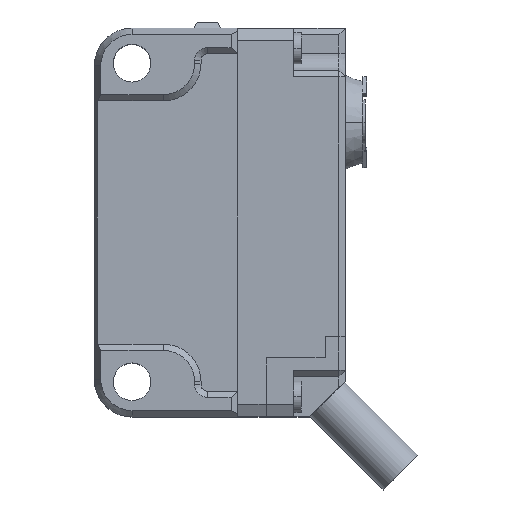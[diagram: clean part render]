
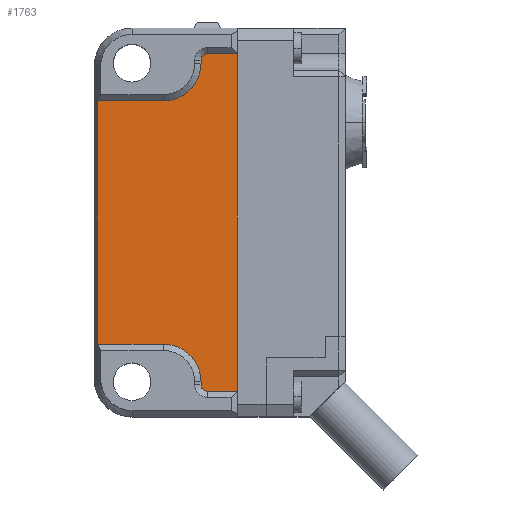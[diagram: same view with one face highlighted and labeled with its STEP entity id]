
A CAD part, top view. The second image highlights one B-rep face of the part: STEP entity #1763.
In plain terms, the highlighted planar face has unit normal (0, 0, 1).
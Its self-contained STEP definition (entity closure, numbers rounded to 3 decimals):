
#103 = DIRECTION ( 'NONE',  ( 0., -1., 0. ) ) ;
#177 = DIRECTION ( 'NONE',  ( 0., 0., 1. ) ) ;
#260 = LINE ( 'NONE', #6302, #2195 ) ;
#328 = AXIS2_PLACEMENT_3D ( 'NONE', #6669, #2855, #6068 ) ;
#365 = ORIENTED_EDGE ( 'NONE', *, *, #3786, .T. ) ;
#395 = CIRCLE ( 'NONE', #6634, 0.5 ) ;
#585 = CARTESIAN_POINT ( 'NONE',  ( 0.225, -9.7, 6. ) ) ;
#591 = DIRECTION ( 'NONE',  ( -1., 0., 0. ) ) ;
#698 = VECTOR ( 'NONE', #3259, 1000. ) ;
#787 = CARTESIAN_POINT ( 'NONE',  ( 8.5, 14.5, 6. ) ) ;
#966 = ORIENTED_EDGE ( 'NONE', *, *, #4054, .T. ) ;
#1073 = VERTEX_POINT ( 'NONE', #1159 ) ;
#1075 = EDGE_CURVE ( 'NONE', #5812, #2580, #1686, .T. ) ;
#1110 = EDGE_LOOP ( 'NONE', ( #2482, #4589, #1712, #966, #5608, #5149, #365, #5944, #5496, #2544, #5777, #4335 ) ) ;
#1159 = CARTESIAN_POINT ( 'NONE',  ( 0.225, 9.7, 6. ) ) ;
#1184 = CARTESIAN_POINT ( 'NONE',  ( 5.5, 9.7, 6. ) ) ;
#1195 = DIRECTION ( 'NONE',  ( 1., 0., 0. ) ) ;
#1314 = CARTESIAN_POINT ( 'NONE',  ( 0., 13.45, 6. ) ) ;
#1362 = DIRECTION ( 'NONE',  ( 0., -1., 0. ) ) ;
#1428 = CIRCLE ( 'NONE', #2542, 3. ) ;
#1449 = EDGE_CURVE ( 'NONE', #3024, #5812, #6017, .T. ) ;
#1601 = AXIS2_PLACEMENT_3D ( 'NONE', #4757, #2553, #4722 ) ;
#1686 = LINE ( 'NONE', #1719, #3475 ) ;
#1712 = ORIENTED_EDGE ( 'NONE', *, *, #5456, .T. ) ;
#1719 = CARTESIAN_POINT ( 'NONE',  ( 0., -13.45, 6. ) ) ;
#1763 = ADVANCED_FACE ( 'NONE', ( #3089 ), #3122, .T. ) ;
#1777 = LINE ( 'NONE', #4466, #5463 ) ;
#1845 = EDGE_CURVE ( 'NONE', #2580, #4354, #3928, .T. ) ;
#2085 = EDGE_CURVE ( 'NONE', #6256, #5259, #4876, .T. ) ;
#2148 = DIRECTION ( 'NONE',  ( 1., 0., 0. ) ) ;
#2195 = VECTOR ( 'NONE', #6730, 1000. ) ;
#2204 = CARTESIAN_POINT ( 'NONE',  ( 9., 12.95, 6. ) ) ;
#2268 = VERTEX_POINT ( 'NONE', #4982 ) ;
#2389 = CARTESIAN_POINT ( 'NONE',  ( 8.5, 12.7, 6. ) ) ;
#2482 = ORIENTED_EDGE ( 'NONE', *, *, #1075, .T. ) ;
#2542 = AXIS2_PLACEMENT_3D ( 'NONE', #6937, #6998, #3131 ) ;
#2544 = ORIENTED_EDGE ( 'NONE', *, *, #3916, .T. ) ;
#2553 = DIRECTION ( 'NONE',  ( 0., 0., 1. ) ) ;
#2580 = VERTEX_POINT ( 'NONE', #5565 ) ;
#2602 = CARTESIAN_POINT ( 'NONE',  ( 0., -9.7, 6. ) ) ;
#2755 = VERTEX_POINT ( 'NONE', #1184 ) ;
#2790 = EDGE_CURVE ( 'NONE', #5868, #3024, #1777, .T. ) ;
#2855 = DIRECTION ( 'NONE',  ( 0., 0., -1. ) ) ;
#2902 = VECTOR ( 'NONE', #103, 1000. ) ;
#2925 = CIRCLE ( 'NONE', #328, 3. ) ;
#2944 = AXIS2_PLACEMENT_3D ( 'NONE', #3940, #6503, #5548 ) ;
#2975 = CARTESIAN_POINT ( 'NONE',  ( 9., -13.45, 6. ) ) ;
#3024 = VERTEX_POINT ( 'NONE', #3643 ) ;
#3089 = FACE_OUTER_BOUND ( 'NONE', #1110, .T. ) ;
#3122 = PLANE ( 'NONE',  #1601 ) ;
#3131 = DIRECTION ( 'NONE',  ( 1., 0., 0. ) ) ;
#3259 = DIRECTION ( 'NONE',  ( 0., 1., 0. ) ) ;
#3360 = VECTOR ( 'NONE', #591, 1000. ) ;
#3395 = VERTEX_POINT ( 'NONE', #5174 ) ;
#3428 = VERTEX_POINT ( 'NONE', #2389 ) ;
#3475 = VECTOR ( 'NONE', #1195, 1000. ) ;
#3643 = CARTESIAN_POINT ( 'NONE',  ( 8.5, -12.95, 6. ) ) ;
#3785 = CARTESIAN_POINT ( 'NONE',  ( 11.4, 14.5, 6. ) ) ;
#3786 = EDGE_CURVE ( 'NONE', #2755, #1073, #260, .T. ) ;
#3916 = EDGE_CURVE ( 'NONE', #5259, #5868, #1428, .T. ) ;
#3928 = LINE ( 'NONE', #3785, #698 ) ;
#3940 = CARTESIAN_POINT ( 'NONE',  ( 9., -12.95, 6. ) ) ;
#4028 = VECTOR ( 'NONE', #1362, 1000. ) ;
#4054 = EDGE_CURVE ( 'NONE', #2268, #3395, #395, .T. ) ;
#4213 = CARTESIAN_POINT ( 'NONE',  ( 8.5, -12.7, 6. ) ) ;
#4335 = ORIENTED_EDGE ( 'NONE', *, *, #1449, .T. ) ;
#4354 = VERTEX_POINT ( 'NONE', #4639 ) ;
#4466 = CARTESIAN_POINT ( 'NONE',  ( 8.5, 14.5, 6. ) ) ;
#4589 = ORIENTED_EDGE ( 'NONE', *, *, #1845, .T. ) ;
#4639 = CARTESIAN_POINT ( 'NONE',  ( 11.4, 13.45, 6. ) ) ;
#4674 = VECTOR ( 'NONE', #2148, 1000. ) ;
#4722 = DIRECTION ( 'NONE',  ( 1., 0., 0. ) ) ;
#4757 = CARTESIAN_POINT ( 'NONE',  ( 0., 14.5, 6. ) ) ;
#4852 = CARTESIAN_POINT ( 'NONE',  ( 5.5, -9.7, 6. ) ) ;
#4876 = LINE ( 'NONE', #2602, #4674 ) ;
#4967 = LINE ( 'NONE', #787, #2902 ) ;
#4982 = CARTESIAN_POINT ( 'NONE',  ( 9., 13.45, 6. ) ) ;
#4985 = EDGE_CURVE ( 'NONE', #3395, #3428, #4967, .T. ) ;
#5149 = ORIENTED_EDGE ( 'NONE', *, *, #6025, .T. ) ;
#5174 = CARTESIAN_POINT ( 'NONE',  ( 8.5, 12.95, 6. ) ) ;
#5178 = EDGE_CURVE ( 'NONE', #1073, #6256, #6217, .T. ) ;
#5259 = VERTEX_POINT ( 'NONE', #4852 ) ;
#5456 = EDGE_CURVE ( 'NONE', #4354, #2268, #5458, .T. ) ;
#5458 = LINE ( 'NONE', #1314, #3360 ) ;
#5463 = VECTOR ( 'NONE', #6641, 1000. ) ;
#5496 = ORIENTED_EDGE ( 'NONE', *, *, #2085, .T. ) ;
#5548 = DIRECTION ( 'NONE',  ( 1., 0., 0. ) ) ;
#5565 = CARTESIAN_POINT ( 'NONE',  ( 11.4, -13.45, 6. ) ) ;
#5608 = ORIENTED_EDGE ( 'NONE', *, *, #4985, .T. ) ;
#5777 = ORIENTED_EDGE ( 'NONE', *, *, #2790, .T. ) ;
#5812 = VERTEX_POINT ( 'NONE', #2975 ) ;
#5868 = VERTEX_POINT ( 'NONE', #4213 ) ;
#5944 = ORIENTED_EDGE ( 'NONE', *, *, #5178, .T. ) ;
#6017 = CIRCLE ( 'NONE', #2944, 0.5 ) ;
#6025 = EDGE_CURVE ( 'NONE', #3428, #2755, #2925, .T. ) ;
#6068 = DIRECTION ( 'NONE',  ( 1., 0., 0. ) ) ;
#6217 = LINE ( 'NONE', #6822, #4028 ) ;
#6256 = VERTEX_POINT ( 'NONE', #585 ) ;
#6302 = CARTESIAN_POINT ( 'NONE',  ( 0., 9.7, 6. ) ) ;
#6503 = DIRECTION ( 'NONE',  ( 0., 0., 1. ) ) ;
#6634 = AXIS2_PLACEMENT_3D ( 'NONE', #2204, #177, #6644 ) ;
#6641 = DIRECTION ( 'NONE',  ( 0., -1., 0. ) ) ;
#6644 = DIRECTION ( 'NONE',  ( 1., 0., 0. ) ) ;
#6669 = CARTESIAN_POINT ( 'NONE',  ( 5.5, 12.7, 6. ) ) ;
#6730 = DIRECTION ( 'NONE',  ( -1., 0., 0. ) ) ;
#6822 = CARTESIAN_POINT ( 'NONE',  ( 0.225, 14.5, 6. ) ) ;
#6937 = CARTESIAN_POINT ( 'NONE',  ( 5.5, -12.7, 6. ) ) ;
#6998 = DIRECTION ( 'NONE',  ( 0., 0., -1. ) ) ;
